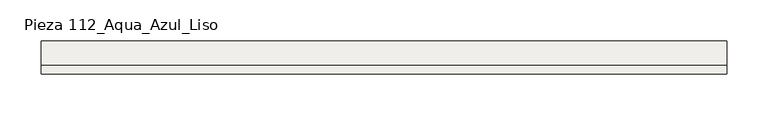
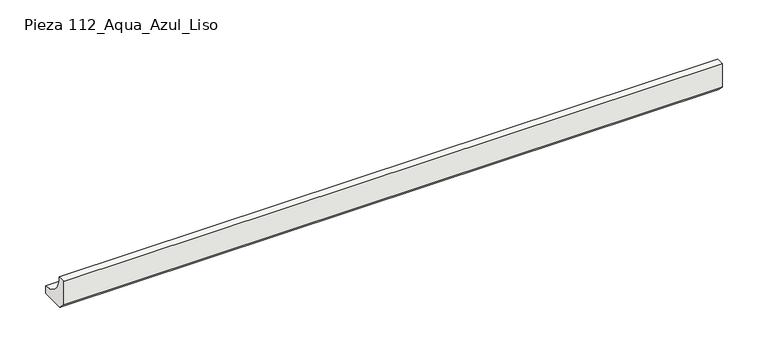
"""IFC4 building model written with IfcOpenShell, lengths in millimetres: slab geometry, ROSA GRES_112 : Pieza 112_Aqua_Azul_Liso."""

from ifc_helpers import new_model, si_unit, point, frame, frame_2d, origin, place, context, project, spatial, polyline, circle_curve, trimmed, segment, composite_curve, outline, extrude, source, transform, mapped, element, save


def pieza_112_aqua_azul_liso_063fb988(model_context):
    return source(origin(), model_context, "Body", "SweptSolid", [
        extrude(outline(composite_curve([segment(polyline([(0.0, 8.7114978), (0.0, 40.0), (9.9734114, 40.0)]), True, "CONTINUOUS"), segment(trimmed(circle_curve(frame_2d((39.9955547, 39.9955547)), 30.0221435), [point((9.9734114, 40.0))], [point((40.0, 9.9734114))], True, "CARTESIAN"), True, "CONTINUOUS"), segment(polyline([(40.0, 9.9734114), (40.0, 0.0), (8.7114978, 0.0), (0.0, 8.7114978)]), True, "CONTINUOUS")], self_intersect=False)), frame((0.0, 0.0, 0.0), z_axis=(1.0, 0.0, 0.0), x_axis=(0.0, 1.0, 0.0)), (0.0, 0.0, 1.0), 831.9084717),
    ])


if __name__ == "__main__":
    model = new_model("IFC4")
    model_context = context("Model", 3, world=origin())
    ifc_project = project(units=[si_unit("LENGTHUNIT", "METRE", prefix="MILLI")], contexts=[model_context])
    site = spatial("IfcSite", under=ifc_project)
    building = spatial("IfcBuilding", under=site)
    placement = place(None, origin())
    pieza_112_aqua_azul_liso_shape = pieza_112_aqua_azul_liso_063fb988(model_context)
    element("IfcSlab", 1, ObjectType="ROSA GRES_112 : Pieza 112_Aqua_Azul_Liso", at=placement, inside=building, context=model_context, shape_type="MappedRepresentation", body=[
        mapped(pieza_112_aqua_azul_liso_shape, transform((0.0, 0.0, 0.0), x_axis=(1.0, 0.0, 0.0), y_axis=(0.0, 1.0, 0.0), z_axis=(0.0, 0.0, 1.0))),
    ])
    save(model, "model.ifc")
